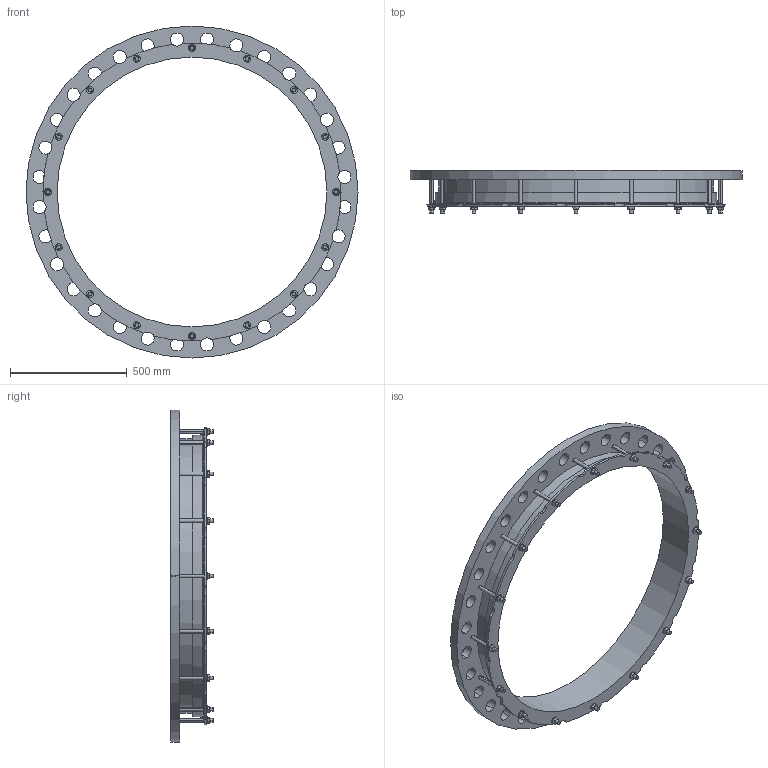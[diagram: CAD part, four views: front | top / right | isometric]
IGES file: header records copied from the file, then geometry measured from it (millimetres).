
Start section:  PTC IGES file: 1152x1100pn25_16not.igs
Global section: file name: 1152x1100pn25_16not.igs; native system: Creo Parametric by PTC Inc.; preprocessor: 2016130; author: mfairey; organization: Unknown; date: 20190404.153455; units: millimetre
Bounding box: 1420 x 182 x 1420 mm (x, y, z)
Surface area: 2737823.5 mm2 (no closed solid volume)
Topology: 0 solids, 0 shells, 352 faces, 1892 edges, 1892 vertices
Faces by surface type: revolution 204, bspline 148
